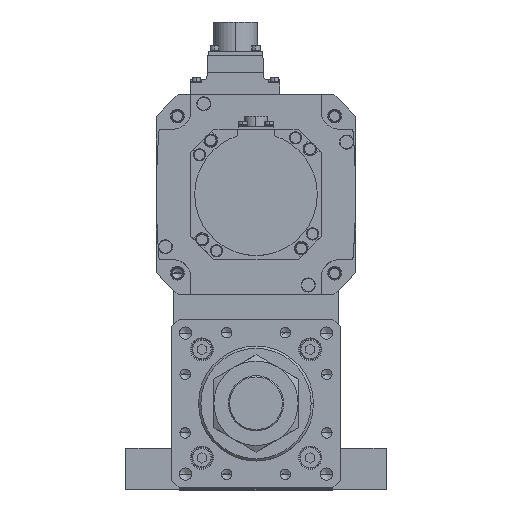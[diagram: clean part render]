
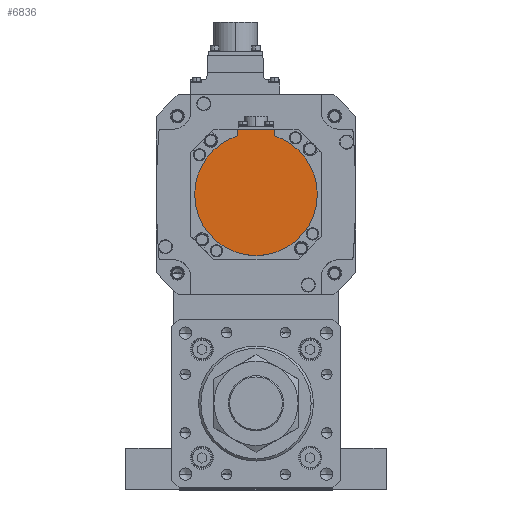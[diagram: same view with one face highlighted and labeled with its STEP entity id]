
A CAD part, top view. The second image highlights one B-rep face of the part: STEP entity #6836.
In plain terms, the highlighted planar face has unit normal (0, 0, 1) as drawn and (0, 0, -1) by its records, which use the part's own axes.
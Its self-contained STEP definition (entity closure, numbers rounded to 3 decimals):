
#147 = EDGE_CURVE ( 'NONE', #1181, #11584, #34923, .T. ) ;
#349 = DIRECTION ( 'NONE',  ( 1., 0., 0. ) ) ;
#374 = AXIS2_PLACEMENT_3D ( 'NONE', #29747, #23987, #32493 ) ;
#581 = DIRECTION ( 'NONE',  ( 0., 1., 0. ) ) ;
#680 = AXIS2_PLACEMENT_3D ( 'NONE', #3252, #14668, #14327 ) ;
#737 = EDGE_CURVE ( 'NONE', #2067, #16760, #13458, .T. ) ;
#820 = CARTESIAN_POINT ( 'NONE',  ( 12., -42.5, -132.5 ) ) ;
#1092 = VECTOR ( 'NONE', #21030, 1000. ) ;
#1181 = VERTEX_POINT ( 'NONE', #15052 ) ;
#1568 = EDGE_LOOP ( 'NONE', ( #26253, #18746, #13254, #23697, #10335, #31364 ) ) ;
#1887 = EDGE_CURVE ( 'NONE', #28929, #11584, #12518, .T. ) ;
#2067 = VERTEX_POINT ( 'NONE', #820 ) ;
#2340 = CARTESIAN_POINT ( 'NONE',  ( -12., -40.329, -132.5 ) ) ;
#2433 = CARTESIAN_POINT ( 'NONE',  ( 40., 0., -132.5 ) ) ;
#3252 = CARTESIAN_POINT ( 'NONE',  ( 0., 0., -132.5 ) ) ;
#5789 = LINE ( 'NONE', #26419, #1092 ) ;
#6704 = AXIS2_PLACEMENT_3D ( 'NONE', #28327, #33633, #22955 ) ;
#6836 = ADVANCED_FACE ( 'NONE', ( #33228 ), #19268, .F. ) ;
#6928 = CIRCLE ( 'NONE', #680, 40. ) ;
#10335 = ORIENTED_EDGE ( 'NONE', *, *, #737, .F. ) ;
#11204 = CARTESIAN_POINT ( 'NONE',  ( 0., -1.249, -132.5 ) ) ;
#11584 = VERTEX_POINT ( 'NONE', #24752 ) ;
#12518 = CIRCLE ( 'NONE', #374, 40. ) ;
#13254 = ORIENTED_EDGE ( 'NONE', *, *, #23592, .F. ) ;
#13458 = LINE ( 'NONE', #25157, #20260 ) ;
#13549 = CARTESIAN_POINT ( 'NONE',  ( 12., -38.158, -132.5 ) ) ;
#13905 = VECTOR ( 'NONE', #24187, 1000. ) ;
#14327 = DIRECTION ( 'NONE',  ( 1., 0., 0. ) ) ;
#14668 = DIRECTION ( 'NONE',  ( 0., 0., 1. ) ) ;
#15052 = CARTESIAN_POINT ( 'NONE',  ( -12., -42.5, -132.5 ) ) ;
#16623 = DIRECTION ( 'NONE',  ( 0., 0., 1. ) ) ;
#16760 = VERTEX_POINT ( 'NONE', #13549 ) ;
#18746 = ORIENTED_EDGE ( 'NONE', *, *, #1887, .F. ) ;
#19268 = PLANE ( 'NONE',  #29552 ) ;
#20260 = VECTOR ( 'NONE', #581, 1000. ) ;
#21030 = DIRECTION ( 'NONE',  ( -1., 0., 0. ) ) ;
#22955 = DIRECTION ( 'NONE',  ( 1., 0., 0. ) ) ;
#23592 = EDGE_CURVE ( 'NONE', #24458, #28929, #23769, .T. ) ;
#23697 = ORIENTED_EDGE ( 'NONE', *, *, #29059, .F. ) ;
#23769 = CIRCLE ( 'NONE', #6704, 40. ) ;
#23987 = DIRECTION ( 'NONE',  ( 0., 0., 1. ) ) ;
#24187 = DIRECTION ( 'NONE',  ( 0., 1., 0. ) ) ;
#24458 = VERTEX_POINT ( 'NONE', #2433 ) ;
#24752 = CARTESIAN_POINT ( 'NONE',  ( -12., -38.158, -132.5 ) ) ;
#25157 = CARTESIAN_POINT ( 'NONE',  ( 12., -1.249, -132.5 ) ) ;
#26253 = ORIENTED_EDGE ( 'NONE', *, *, #147, .T. ) ;
#26419 = CARTESIAN_POINT ( 'NONE',  ( 0., -42.5, -132.5 ) ) ;
#26910 = EDGE_CURVE ( 'NONE', #2067, #1181, #5789, .T. ) ;
#28327 = CARTESIAN_POINT ( 'NONE',  ( 0., 0., -132.5 ) ) ;
#28929 = VERTEX_POINT ( 'NONE', #32913 ) ;
#29059 = EDGE_CURVE ( 'NONE', #16760, #24458, #6928, .T. ) ;
#29552 = AXIS2_PLACEMENT_3D ( 'NONE', #11204, #16623, #349 ) ;
#29747 = CARTESIAN_POINT ( 'NONE',  ( 0., 0., -132.5 ) ) ;
#31364 = ORIENTED_EDGE ( 'NONE', *, *, #26910, .T. ) ;
#32493 = DIRECTION ( 'NONE',  ( 1., 0., 0. ) ) ;
#32913 = CARTESIAN_POINT ( 'NONE',  ( -40., 0., -132.5 ) ) ;
#33228 = FACE_OUTER_BOUND ( 'NONE', #1568, .T. ) ;
#33633 = DIRECTION ( 'NONE',  ( 0., 0., 1. ) ) ;
#34923 = LINE ( 'NONE', #2340, #13905 ) ;
